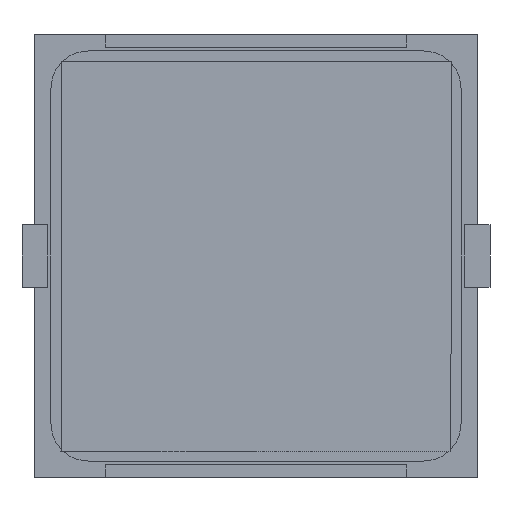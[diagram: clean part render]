
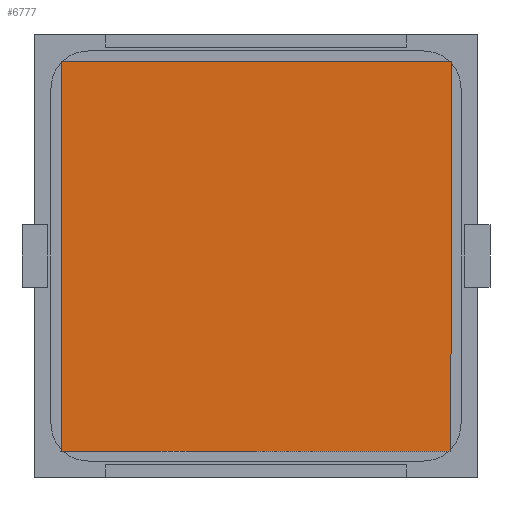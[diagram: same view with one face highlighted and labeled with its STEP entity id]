
A CAD part, front view. The second image highlights one B-rep face of the part: STEP entity #6777.
In plain terms, the highlighted planar face has unit normal (0, -1, 0).
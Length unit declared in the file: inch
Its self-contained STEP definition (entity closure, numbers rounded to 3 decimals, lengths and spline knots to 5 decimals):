
#420 = CARTESIAN_POINT ( 'NONE',  ( 0.61024, -0.005, -0.61024 ) ) ;
#1054 = VECTOR ( 'NONE', #9720, 39.37008 ) ;
#1437 = EDGE_CURVE ( 'NONE', #11569, #1901, #8827, .T. ) ;
#1644 = DIRECTION ( 'NONE',  ( 1., 0., 0. ) ) ;
#1901 = VERTEX_POINT ( 'NONE', #13627 ) ;
#2583 = VECTOR ( 'NONE', #3444, 39.37008 ) ;
#2594 = DIRECTION ( 'NONE',  ( 0., 0., 1. ) ) ;
#3255 = EDGE_CURVE ( 'NONE', #9265, #12151, #4757, .T. ) ;
#3444 = DIRECTION ( 'NONE',  ( 0., 0., 1. ) ) ;
#3638 = CARTESIAN_POINT ( 'NONE',  ( -0.61024, -0.005, 0.61024 ) ) ;
#3779 = ORIENTED_EDGE ( 'NONE', *, *, #4732, .F. ) ;
#4732 = EDGE_CURVE ( 'NONE', #1901, #9265, #8641, .T. ) ;
#4733 = PLANE ( 'NONE',  #6009 ) ;
#4757 = LINE ( 'NONE', #11103, #7760 ) ;
#4860 = CARTESIAN_POINT ( 'NONE',  ( 0.61024, -0.005, 0.61024 ) ) ;
#4981 = EDGE_CURVE ( 'NONE', #12151, #11569, #11831, .T. ) ;
#5174 = ORIENTED_EDGE ( 'NONE', *, *, #4981, .F. ) ;
#6009 = AXIS2_PLACEMENT_3D ( 'NONE', #3638, #7806, #2594 ) ;
#6523 = CARTESIAN_POINT ( 'NONE',  ( 0.61024, -0.005, -0.61024 ) ) ;
#6611 = EDGE_LOOP ( 'NONE', ( #3779, #9025, #5174, #11779 ) ) ;
#6777 = ADVANCED_FACE ( 'NONE', ( #10086 ), #4733, .F. ) ;
#7760 = VECTOR ( 'NONE', #1644, 39.37008 ) ;
#7806 = DIRECTION ( 'NONE',  ( 0., 1., 0. ) ) ;
#7840 = DIRECTION ( 'NONE',  ( -1., 0., 0. ) ) ;
#8641 = LINE ( 'NONE', #12909, #2583 ) ;
#8794 = CARTESIAN_POINT ( 'NONE',  ( -0.61024, -0.005, 0.61024 ) ) ;
#8827 = LINE ( 'NONE', #9991, #11852 ) ;
#9025 = ORIENTED_EDGE ( 'NONE', *, *, #1437, .F. ) ;
#9265 = VERTEX_POINT ( 'NONE', #8794 ) ;
#9720 = DIRECTION ( 'NONE',  ( 0., 0., -1. ) ) ;
#9991 = CARTESIAN_POINT ( 'NONE',  ( -0.61024, -0.005, -0.61024 ) ) ;
#10086 = FACE_OUTER_BOUND ( 'NONE', #6611, .T. ) ;
#11103 = CARTESIAN_POINT ( 'NONE',  ( -0.61024, -0.005, 0.61024 ) ) ;
#11569 = VERTEX_POINT ( 'NONE', #420 ) ;
#11779 = ORIENTED_EDGE ( 'NONE', *, *, #3255, .F. ) ;
#11831 = LINE ( 'NONE', #6523, #1054 ) ;
#11852 = VECTOR ( 'NONE', #7840, 39.37008 ) ;
#12151 = VERTEX_POINT ( 'NONE', #4860 ) ;
#12909 = CARTESIAN_POINT ( 'NONE',  ( -0.61024, -0.005, -0.61024 ) ) ;
#13627 = CARTESIAN_POINT ( 'NONE',  ( -0.61024, -0.005, -0.61024 ) ) ;
